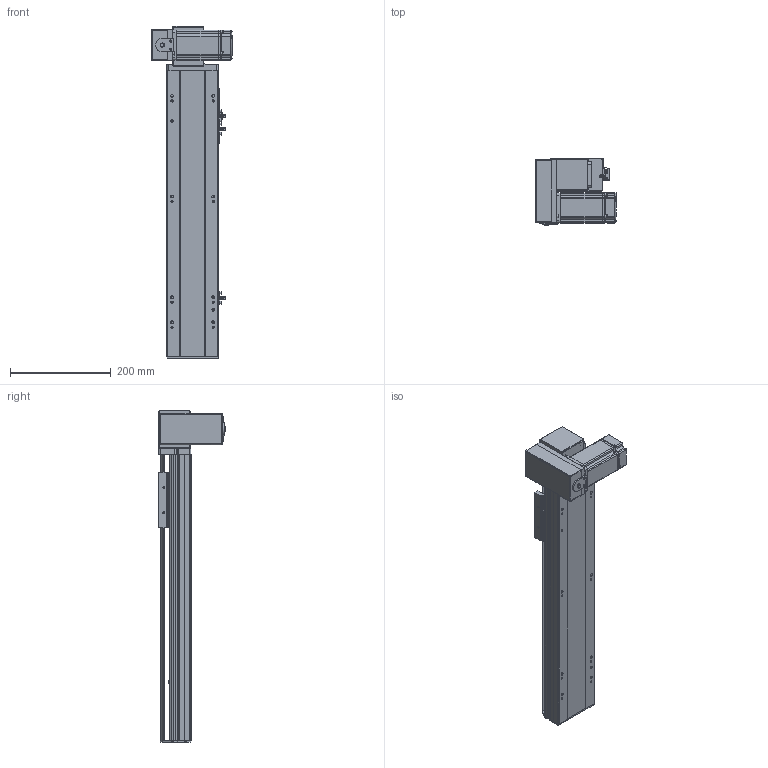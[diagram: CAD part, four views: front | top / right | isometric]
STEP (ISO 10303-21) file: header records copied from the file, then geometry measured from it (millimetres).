
FILE_DESCRIPTION (( 'STEP AP214' ), '1' );
FILE_NAME ('TPT10-L32-350-LD-T10-C4.STEP', '2023-03-02T10:12:29', ( '' ), ( '' ), 'SwSTEP 2.0', 'SolidWorks 2020', '' );
FILE_SCHEMA (( 'AUTOMOTIVE_DESIGN' ));
Length unit declared in the file: millimetre
Products named in the file (12): 葩璃 TPT10-L-001 菁釱MZ-102A-01^TPT10-L32-LD-T10-C4; hexagon head bolts-full thread gb_GB_FASTENER_BOLT_STBAB A M5X16-N; 葩璃 侂狟100W^TPT10-L32-LD-T10-C4; 葩璃 侂狟400W^TPT10-L32-LD-T10-C4; 葩璃 TPT10-L-007 々湍釱MZ-169x88^TPT10-L32-LD-T10-C4_L; hexagon socket head cap screws gb_GB_FASTENER_SCREWS_HSHCS M3X6-N; 葩璃 TPT10-L-002 奻裔MZ-102A-02^TPT10-L32-LD-T10-C4; 葩璃 TPT10-L-005 賑釱MZ-102A-03^TPT10-L32-LD-T10-C4; hex nuts, style 1-grades ab gb_GB_FASTENER_NUT_SNAB1 M3-N; 葩璃 TPT10-L-009 萇儂啣^TPT10-L32-LD-T10-C4_100W; TPT10-L32-350-LD-T10-C4; 葩璃 pm-t65-672^TPT10-L32-LD-T10-C4
Assembly tree (23 placements, depth 2):
  TPT10-L32-350-LD-T10-C4
    葩璃 TPT10-L-001 菁釱MZ-102A-01^TPT10-L32-LD-T10-C4
    葩璃 TPT10-L-002 奻裔MZ-102A-02^TPT10-L32-LD-T10-C4
    葩璃 TPT10-L-007 々湍釱MZ-169x88^TPT10-L32-LD-T10-C4_L
    葩璃 TPT10-L-005 賑釱MZ-102A-03^TPT10-L32-LD-T10-C4
    葩璃 TPT10-L-009 萇儂啣^TPT10-L32-LD-T10-C4_100W
    葩璃 pm-t65-672^TPT10-L32-LD-T10-C4  x3
    葩璃 侂狟100W^TPT10-L32-LD-T10-C4
    葩璃 侂狟400W^TPT10-L32-LD-T10-C4
    hexagon head bolts-full thread gb_GB_FASTENER_BOLT_STBAB A M5X16-N
    hexagon socket head cap screws gb_GB_FASTENER_SCREWS_HSHCS M3X6-N  x6
    hex nuts, style 1-grades ab gb_GB_FASTENER_NUT_SNAB1 M3-N  x6
Bounding box: 160.5 x 134.65 x 660 mm (x, y, z)
Volume: 2624850 mm3; surface area: 553568.5 mm2
Topology: 31 solids, 31 shells, 1873 faces, 4895 edges, 3133 vertices
Faces by surface type: plane 1038, cylinder 599, cone 190, bspline 34, torus 12
Entity records: 46937 total; most frequent: CARTESIAN_POINT 9192, DIRECTION 7686, ORIENTED_EDGE 7422, EDGE_CURVE 3711, AXIS2_PLACEMENT_3D 2692, VERTEX_POINT 2424, VECTOR 2302, LINE 2302
